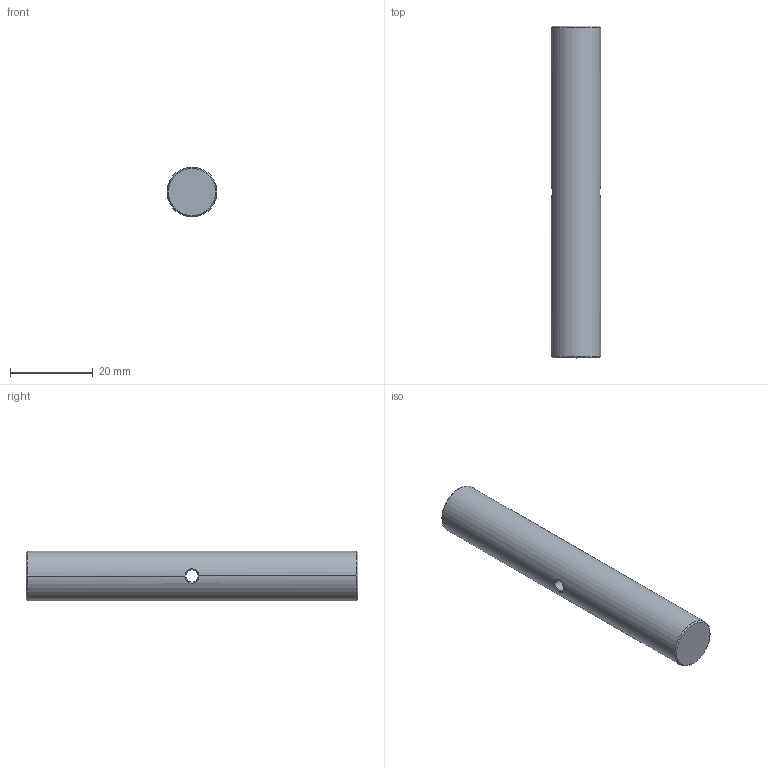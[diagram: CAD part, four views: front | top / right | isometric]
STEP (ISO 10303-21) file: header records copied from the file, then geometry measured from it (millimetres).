
FILE_DESCRIPTION((''),'2;1');
FILE_NAME('PCA80-M4','2020-12-11T',('Administrator'),(''),'CREO PARAMETRIC BY PTC INC, 2015290','CREO PARAMETRIC BY PTC INC, 2015290','');
FILE_SCHEMA(('CONFIG_CONTROL_DESIGN'));
Length unit declared in the file: millimetre
Products named in the file (1): PCA80-M4
Bounding box: 12 x 80 x 12 mm (x, y, z)
Volume: 8881.2 mm3; surface area: 3452 mm2
Topology: 1 solids, 1 shells, 47 faces, 123 edges, 75 vertices
Faces by surface type: cylinder 23, bspline 14, cone 8, plane 2
Entity records: 3325 total; most frequent: CARTESIAN_POINT 2299, ORIENTED_EDGE 242, DIRECTION 139, EDGE_CURVE 121, VERTEX_POINT 75, B_SPLINE_CURVE_WITH_KNOTS 62, EDGE_LOOP 48, AXIS2_PLACEMENT_3D 47
